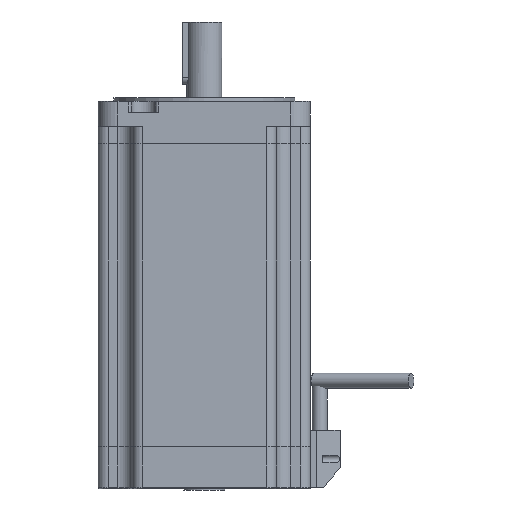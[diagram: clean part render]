
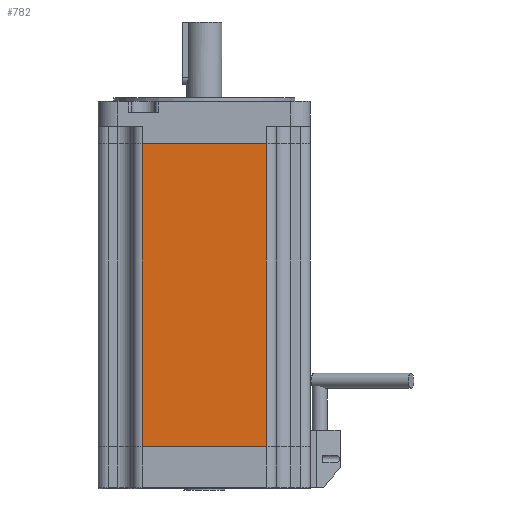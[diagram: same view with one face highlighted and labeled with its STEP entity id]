
A CAD part, left-side view. The second image highlights one B-rep face of the part: STEP entity #782.
In plain terms, the highlighted planar face has unit normal (-1, 0, 0).
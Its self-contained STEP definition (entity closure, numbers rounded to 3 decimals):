
#782=ADVANCED_FACE('',(#1129),#987,.F.);
#987=PLANE('',#4658);
#1129=FACE_OUTER_BOUND('',#1375,.T.);
#1375=EDGE_LOOP('',(#2098,#2099,#2100,#2101));
#2098=ORIENTED_EDGE('',*,*,#3400,.T.);
#2099=ORIENTED_EDGE('',*,*,#3447,.T.);
#2100=ORIENTED_EDGE('',*,*,#3423,.T.);
#2101=ORIENTED_EDGE('',*,*,#3446,.T.);
#2929=VERTEX_POINT('',#6749);
#2930=VERTEX_POINT('',#6751);
#2952=VERTEX_POINT('',#6796);
#2953=VERTEX_POINT('',#6798);
#3400=EDGE_CURVE('',#2930,#2929,#3906,.T.);
#3423=EDGE_CURVE('',#2953,#2952,#3916,.T.);
#3446=EDGE_CURVE('',#2952,#2930,#3928,.T.);
#3447=EDGE_CURVE('',#2929,#2953,#3929,.T.);
#3906=LINE('',#6750,#4244);
#3916=LINE('',#6797,#4254);
#3928=LINE('',#6842,#4266);
#3929=LINE('',#6844,#4267);
#4244=VECTOR('',#5413,1.);
#4254=VECTOR('',#5451,1.);
#4266=VECTOR('',#5487,1.);
#4267=VECTOR('',#5490,1.);
#4658=AXIS2_PLACEMENT_3D('',#6867,#5524,#5525);
#5413=DIRECTION('',(0.,-1.,0.));
#5451=DIRECTION('',(0.,1.,0.));
#5487=DIRECTION('',(0.,0.,-1.));
#5490=DIRECTION('',(0.,0.,1.));
#5524=DIRECTION('',(1.,0.,0.));
#5525=DIRECTION('',(0.,0.,-1.));
#6749=CARTESIAN_POINT('',(-42.75,-24.94,-139.));
#6750=CARTESIAN_POINT('',(-42.75,0.06,-139.));
#6751=CARTESIAN_POINT('',(-42.75,25.06,-139.));
#6796=CARTESIAN_POINT('',(-42.75,25.06,-17.));
#6797=CARTESIAN_POINT('',(-42.75,-34.69,-17.));
#6798=CARTESIAN_POINT('',(-42.75,-24.94,-17.));
#6842=CARTESIAN_POINT('',(-42.75,25.06,-118.));
#6844=CARTESIAN_POINT('',(-42.75,-24.94,-118.));
#6867=CARTESIAN_POINT('',(-42.75,-34.69,-118.));
